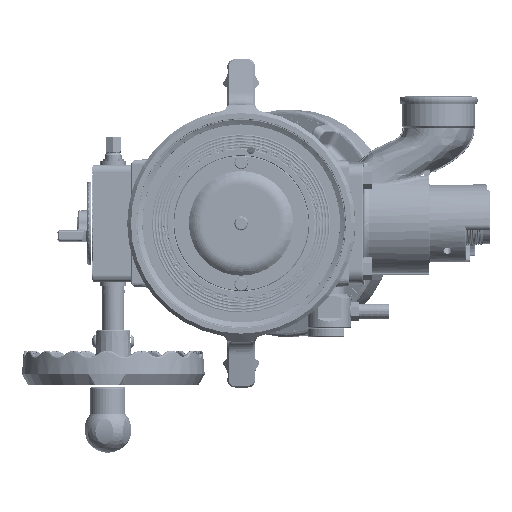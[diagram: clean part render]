
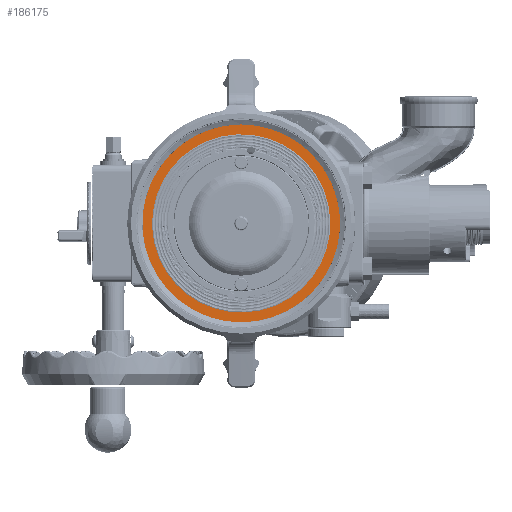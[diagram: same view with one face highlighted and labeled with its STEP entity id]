
A CAD part, left-side view. The second image highlights one B-rep face of the part: STEP entity #186175.
In plain terms, the highlighted planar face has unit normal (-1, 0, 0).
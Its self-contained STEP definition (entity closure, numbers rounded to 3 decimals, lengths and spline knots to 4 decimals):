
#9452 = AXIS2_PLACEMENT_3D ( 'NONE', #173504, #178231, #112458 ) ;
#15290 = FACE_BOUND ( 'NONE', #183754, .T. ) ;
#16502 = VERTEX_POINT ( 'NONE', #280826 ) ;
#17789 = AXIS2_PLACEMENT_3D ( 'NONE', #116884, #160422, #141032 ) ;
#21362 = DIRECTION ( 'NONE',  ( 0., 0.13, -0.992 ) ) ;
#23043 = VERTEX_POINT ( 'NONE', #180172 ) ;
#26635 = AXIS2_PLACEMENT_3D ( 'NONE', #86178, #263863, #196244 ) ;
#35643 = CARTESIAN_POINT ( 'NONE',  ( -3.58, -0.3943, 3.0058 ) ) ;
#36786 = CIRCLE ( 'NONE', #265919, 3.5625 ) ;
#41707 = CARTESIAN_POINT ( 'NONE',  ( -3.58, 0., 0. ) ) ;
#51421 = CIRCLE ( 'NONE', #17789, 3.0315 ) ;
#86178 = CARTESIAN_POINT ( 'NONE',  ( -3.58, 0., 0. ) ) ;
#91204 = AXIS2_PLACEMENT_3D ( 'NONE', #41707, #128563, #21362 ) ;
#111193 = ORIENTED_EDGE ( 'NONE', *, *, #286073, .T. ) ;
#112458 = DIRECTION ( 'NONE',  ( 0., -0.13, 0.992 ) ) ;
#116884 = CARTESIAN_POINT ( 'NONE',  ( -3.58, 0., 0. ) ) ;
#128563 = DIRECTION ( 'NONE',  ( -1., 0., 0. ) ) ;
#132793 = FACE_OUTER_BOUND ( 'NONE', #283120, .T. ) ;
#141032 = DIRECTION ( 'NONE',  ( 0., 0.13, -0.992 ) ) ;
#160422 = DIRECTION ( 'NONE',  ( -1., 0., 0. ) ) ;
#167008 = DIRECTION ( 'NONE',  ( 0., 0.13, -0.992 ) ) ;
#173504 = CARTESIAN_POINT ( 'NONE',  ( -3.58, -3.0058, -0.3943 ) ) ;
#174422 = PLANE ( 'NONE',  #9452 ) ;
#177129 = CIRCLE ( 'NONE', #91204, 3.0315 ) ;
#178231 = DIRECTION ( 'NONE',  ( 1., 0., 0. ) ) ;
#180172 = CARTESIAN_POINT ( 'NONE',  ( -3.58, -0.4633, 3.5322 ) ) ;
#183754 = EDGE_LOOP ( 'NONE', ( #258794, #257567 ) ) ;
#186175 = ADVANCED_FACE ( 'NONE', ( #15290, #132793 ), #174422, .F. ) ;
#186185 = ORIENTED_EDGE ( 'NONE', *, *, #225343, .T. ) ;
#196244 = DIRECTION ( 'NONE',  ( 0., 0.13, -0.992 ) ) ;
#206648 = EDGE_CURVE ( 'NONE', #221242, #213559, #51421, .T. ) ;
#213559 = VERTEX_POINT ( 'NONE', #35643 ) ;
#215298 = DIRECTION ( 'NONE',  ( -1., 0., 0. ) ) ;
#221242 = VERTEX_POINT ( 'NONE', #223039 ) ;
#223039 = CARTESIAN_POINT ( 'NONE',  ( -3.58, 0.3943, -3.0058 ) ) ;
#225343 = EDGE_CURVE ( 'NONE', #16502, #23043, #266113, .T. ) ;
#236552 = CARTESIAN_POINT ( 'NONE',  ( -3.58, 0., 0. ) ) ;
#250217 = EDGE_CURVE ( 'NONE', #213559, #221242, #177129, .T. ) ;
#257567 = ORIENTED_EDGE ( 'NONE', *, *, #250217, .F. ) ;
#258794 = ORIENTED_EDGE ( 'NONE', *, *, #206648, .F. ) ;
#263863 = DIRECTION ( 'NONE',  ( -1., 0., 0. ) ) ;
#265919 = AXIS2_PLACEMENT_3D ( 'NONE', #236552, #215298, #167008 ) ;
#266113 = CIRCLE ( 'NONE', #26635, 3.5625 ) ;
#280826 = CARTESIAN_POINT ( 'NONE',  ( -3.58, 0.4633, -3.5322 ) ) ;
#283120 = EDGE_LOOP ( 'NONE', ( #186185, #111193 ) ) ;
#286073 = EDGE_CURVE ( 'NONE', #23043, #16502, #36786, .T. ) ;
